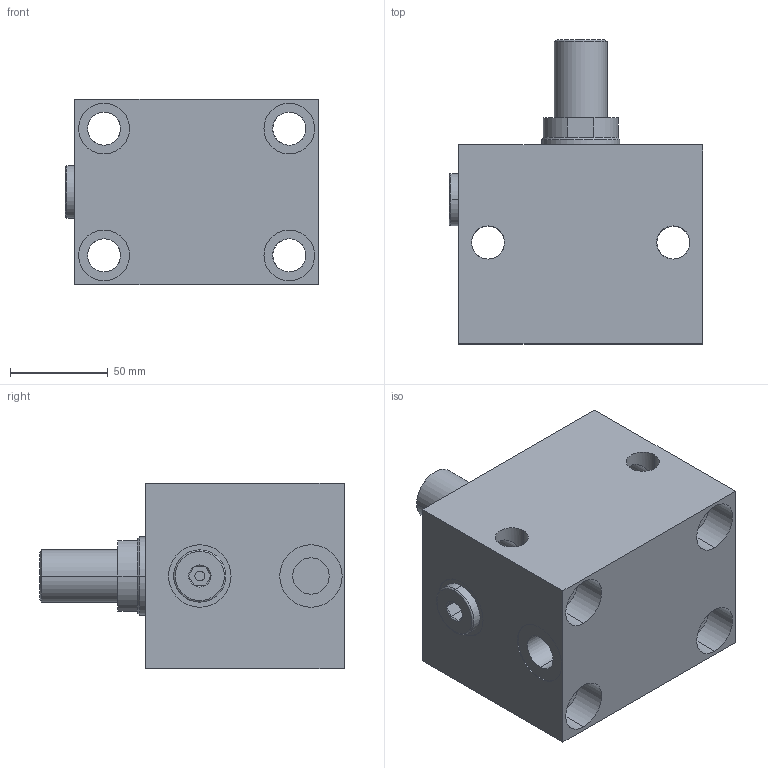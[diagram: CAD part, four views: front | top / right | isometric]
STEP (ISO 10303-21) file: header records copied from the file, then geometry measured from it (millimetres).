
FILE_DESCRIPTION (( 'STEP AP203' ), '1' );
FILE_NAME ('GERMA_Blockzylinder_650-063-012-A.STEP', '2023-08-26T17:06:28', ( '' ), ( '' ), 'SwSTEP 2.0', 'SolidWorks 2016', '' );
FILE_SCHEMA (( 'CONFIG_CONTROL_DESIGN' ));
Length unit declared in the file: millimetre
Products named in the file (3): Kolben 60x-063_Kolben DU.63-Hub30-AG; GERMA_Blockzylinder_650-063-012-A; GH-600-063-ew_GH-650-063-012
Assembly tree (2 placements, depth 2):
  GERMA_Blockzylinder_650-063-012-A
    GH-600-063-ew_GH-650-063-012
    Kolben 60x-063_Kolben DU.63-Hub30-AG
Bounding box: 129.8 x 156 x 95 mm (x, y, z)
Volume: 1057732.6 mm3; surface area: 141415.2 mm2
Topology: 2 solids, 2 shells, 135 faces, 313 edges, 193 vertices
Faces by surface type: cylinder 75, plane 39, cone 19, torus 2
Entity records: 4213 total; most frequent: CARTESIAN_POINT 809, DIRECTION 690, ORIENTED_EDGE 618, EDGE_CURVE 309, AXIS2_PLACEMENT_3D 280, VERTEX_POINT 193, EDGE_LOOP 170, CIRCLE 140
